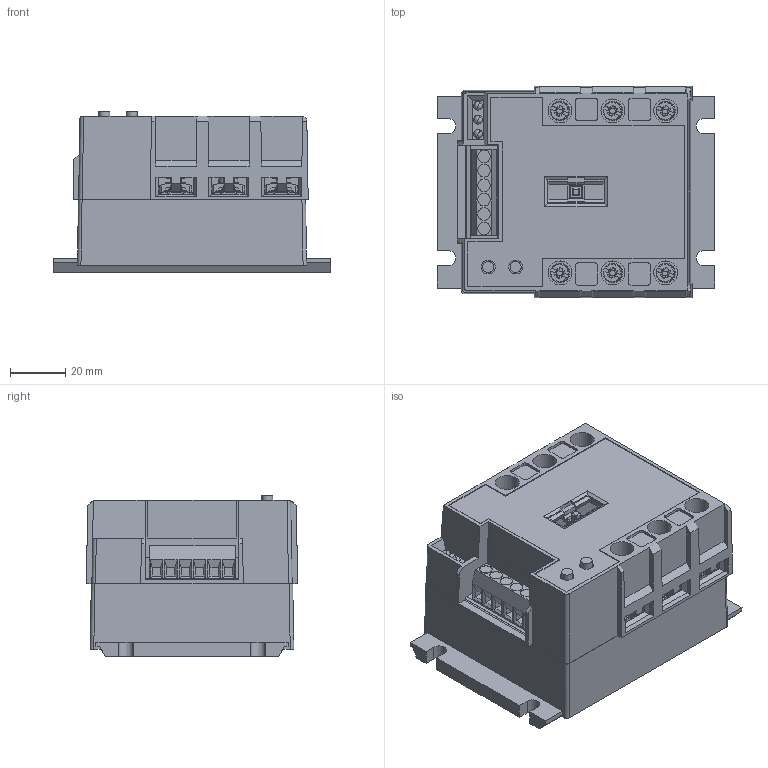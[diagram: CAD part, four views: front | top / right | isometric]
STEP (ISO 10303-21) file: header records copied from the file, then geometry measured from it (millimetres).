
FILE_DESCRIPTION(/* description */ (''),/* implementation_level */ '2;1');
FILE_NAME(/* name */ 'R:\Stock\3D pour clients\CELDUC references\2D3D659 A.stp',/* time_stamp */ '2021-02-25T11:25:06+01:00',/* author */ ('fbros'),/* organization */ (''),/* preprocessor_version */ 'ST-DEVELOPER v17',/* originating_system */ 'Autodesk Inventor 2018',/* authorisation */ '');
FILE_SCHEMA (('AUTOMOTIVE_DESIGN { 1 0 10303 214 3 1 1 }'));
Products named in the file (1): 2D3D659 A
Bounding box: 100 x 76.2 x 58.2 mm (x, y, z)
Volume: 105877.5 mm3; surface area: 97711.9 mm2
Topology: 7 solids, 13 shells, 1649 faces, 4514 edges, 2907 vertices
Faces by surface type: plane 1157, cylinder 274, cone 176, torus 24, sphere 10, bspline 8
Full cylindrical faces by diameter (mm): 1.1 x10, 2 x6, 2.5 x6, 3.2 x3, 3.3 x6, 3.621 x6, 3.8 x6, 4 x8, 4.5 x6, 5 x6, 6 x6, 7 x6, 8 x6, 8.6 x6, 9 x6
Entity records: 55267 total; most frequent: CARTESIAN_POINT 11286, ORIENTED_EDGE 9050, DIRECTION 8748, EDGE_CURVE 4525, AXIS2_PLACEMENT_3D 2959, VERTEX_POINT 2907, LINE 2830, VECTOR 2830
